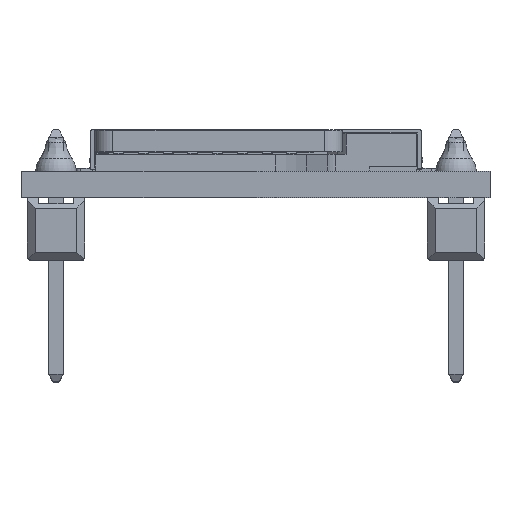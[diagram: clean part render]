
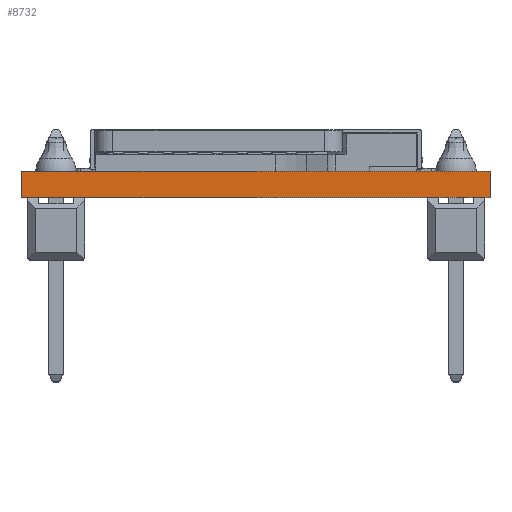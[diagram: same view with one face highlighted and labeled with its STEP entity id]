
A CAD part, top view. The second image highlights one B-rep face of the part: STEP entity #8732.
In plain terms, the highlighted planar face has unit normal (0, 0, 1).
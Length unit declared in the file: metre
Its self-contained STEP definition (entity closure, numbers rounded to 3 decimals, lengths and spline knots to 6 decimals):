
#339 = VECTOR ( 'NONE', #14144, 1. ) ;
#1126 = EDGE_CURVE ( 'NONE', #49810, #37994, #8551, .T. ) ;
#4121 = CARTESIAN_POINT ( 'NONE',  ( -0.0104, 0., 0.0104 ) ) ;
#6756 = FACE_OUTER_BOUND ( 'NONE', #18237, .T. ) ;
#8551 = LINE ( 'NONE', #77659, #85315 ) ;
#8732 = ADVANCED_FACE ( 'NONE', ( #6756 ), #43852, .F. ) ;
#10175 = VERTEX_POINT ( 'NONE', #82757 ) ;
#14144 = DIRECTION ( 'NONE',  ( 0., 1., 0. ) ) ;
#14728 = LINE ( 'NONE', #15012, #74094 ) ;
#15012 = CARTESIAN_POINT ( 'NONE',  ( 0.0104, 0.00115, 0.0104 ) ) ;
#18237 = EDGE_LOOP ( 'NONE', ( #70027, #20158, #82731, #67425 ) ) ;
#20158 = ORIENTED_EDGE ( 'NONE', *, *, #88493, .F. ) ;
#20165 = LINE ( 'NONE', #71181, #339 ) ;
#22360 = DIRECTION ( 'NONE',  ( -1., 0., 0. ) ) ;
#25647 = DIRECTION ( 'NONE',  ( 1., 0., 0. ) ) ;
#30336 = VERTEX_POINT ( 'NONE', #37065 ) ;
#37065 = CARTESIAN_POINT ( 'NONE',  ( -0.0104, 0.00115, 0.0104 ) ) ;
#37994 = VERTEX_POINT ( 'NONE', #65061 ) ;
#43852 = PLANE ( 'NONE',  #44106 ) ;
#44106 = AXIS2_PLACEMENT_3D ( 'NONE', #95784, #51365, #22360 ) ;
#49810 = VERTEX_POINT ( 'NONE', #4121 ) ;
#51365 = DIRECTION ( 'NONE',  ( 0., 0., -1. ) ) ;
#58525 = EDGE_CURVE ( 'NONE', #49810, #30336, #20165, .T. ) ;
#60321 = DIRECTION ( 'NONE',  ( 0., 1., 0. ) ) ;
#62821 = CARTESIAN_POINT ( 'NONE',  ( 0., 0.00115, 0.0104 ) ) ;
#65061 = CARTESIAN_POINT ( 'NONE',  ( 0.0104, 0., 0.0104 ) ) ;
#67425 = ORIENTED_EDGE ( 'NONE', *, *, #1126, .T. ) ;
#70027 = ORIENTED_EDGE ( 'NONE', *, *, #95670, .T. ) ;
#71181 = CARTESIAN_POINT ( 'NONE',  ( -0.0104, 0.00115, 0.0104 ) ) ;
#74094 = VECTOR ( 'NONE', #60321, 1. ) ;
#74246 = VECTOR ( 'NONE', #92281, 1. ) ;
#77659 = CARTESIAN_POINT ( 'NONE',  ( 0., 0., 0.0104 ) ) ;
#82731 = ORIENTED_EDGE ( 'NONE', *, *, #58525, .F. ) ;
#82757 = CARTESIAN_POINT ( 'NONE',  ( 0.0104, 0.00115, 0.0104 ) ) ;
#85315 = VECTOR ( 'NONE', #25647, 1. ) ;
#88493 = EDGE_CURVE ( 'NONE', #30336, #10175, #93995, .T. ) ;
#92281 = DIRECTION ( 'NONE',  ( 1., 0., 0. ) ) ;
#93995 = LINE ( 'NONE', #62821, #74246 ) ;
#95670 = EDGE_CURVE ( 'NONE', #37994, #10175, #14728, .T. ) ;
#95784 = CARTESIAN_POINT ( 'NONE',  ( -0.0104, 0.00115, 0.0104 ) ) ;
